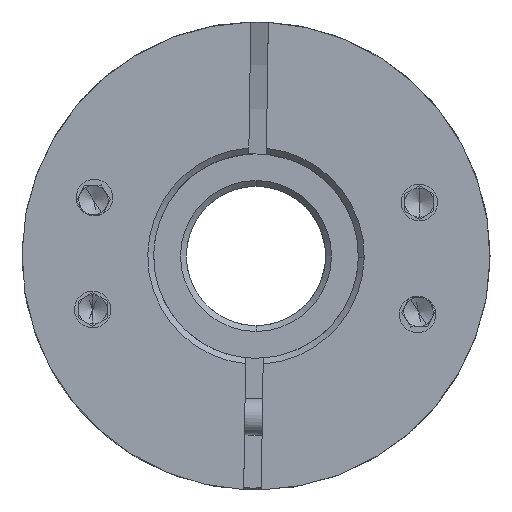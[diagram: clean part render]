
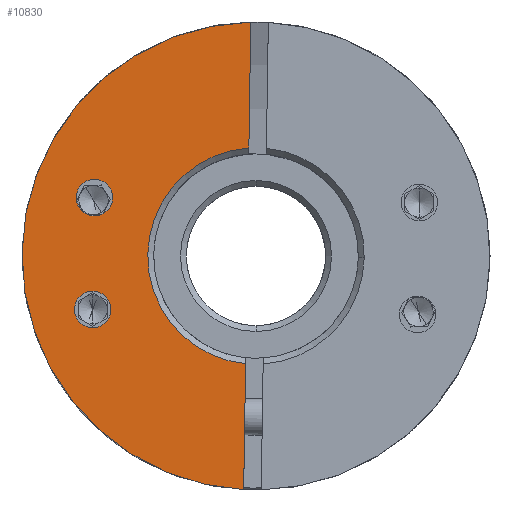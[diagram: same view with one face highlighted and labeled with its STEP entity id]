
A CAD part, front view. The second image highlights one B-rep face of the part: STEP entity #10830.
In plain terms, the highlighted planar face has unit normal (0, -1, 0).
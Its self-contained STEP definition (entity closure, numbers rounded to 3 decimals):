
#327 = CARTESIAN_POINT ( 'NONE',  ( -71.479, -19.411, 4.013 ) ) ;
#743 = DIRECTION ( 'NONE',  ( 0., -1., 0. ) ) ;
#866 = CARTESIAN_POINT ( 'NONE',  ( -59.535, -19.411, 15.996 ) ) ;
#1013 = DIRECTION ( 'NONE',  ( 0., 1., 0. ) ) ;
#1608 = EDGE_CURVE ( 'NONE', #3288, #22600, #21509, .T. ) ;
#1945 = EDGE_LOOP ( 'NONE', ( #6872, #2321 ) ) ;
#1963 = VERTEX_POINT ( 'NONE', #5289 ) ;
#2269 = FACE_BOUND ( 'NONE', #19463, .T. ) ;
#2321 = ORIENTED_EDGE ( 'NONE', *, *, #17450, .T. ) ;
#2393 = CARTESIAN_POINT ( 'NONE',  ( -59.178, -19.411, 0. ) ) ;
#2466 = EDGE_CURVE ( 'NONE', #8065, #1963, #6047, .T. ) ;
#3288 = VERTEX_POINT ( 'NONE', #4559 ) ;
#3809 = CIRCLE ( 'NONE', #10572, 16. ) ;
#4025 = CIRCLE ( 'NONE', #14895, 1.25 ) ;
#4108 = ORIENTED_EDGE ( 'NONE', *, *, #14661, .F. ) ;
#4559 = CARTESIAN_POINT ( 'NONE',  ( -59.89, -19.411, -7.366 ) ) ;
#4976 = DIRECTION ( 'NONE',  ( 1., 0., -0.015 ) ) ;
#5278 = DIRECTION ( 'NONE',  ( -0.015, 0., -1. ) ) ;
#5289 = CARTESIAN_POINT ( 'NONE',  ( -75.176, -19.411, 0.243 ) ) ;
#6047 = CIRCLE ( 'NONE', #6116, 16. ) ;
#6084 = DIRECTION ( 'NONE',  ( 0., -1., 0. ) ) ;
#6116 = AXIS2_PLACEMENT_3D ( 'NONE', #2393, #743, #10005 ) ;
#6121 = EDGE_LOOP ( 'NONE', ( #16788, #9513, #4108, #15273, #24059 ) ) ;
#6758 = VERTEX_POINT ( 'NONE', #11191 ) ;
#6872 = ORIENTED_EDGE ( 'NONE', *, *, #10957, .T. ) ;
#7732 = CARTESIAN_POINT ( 'NONE',  ( -60.021, -19.411, -15.978 ) ) ;
#8065 = VERTEX_POINT ( 'NONE', #866 ) ;
#8624 = CIRCLE ( 'NONE', #19396, 1.25 ) ;
#8690 = VECTOR ( 'NONE', #5278, 1000. ) ;
#8961 = CARTESIAN_POINT ( 'NONE',  ( -59.178, -19.411, 0. ) ) ;
#8976 = DIRECTION ( 'NONE',  ( 0., -1., 0. ) ) ;
#9513 = ORIENTED_EDGE ( 'NONE', *, *, #18673, .T. ) ;
#9601 = DIRECTION ( 'NONE',  ( 1., 0., -0.015 ) ) ;
#9630 = ORIENTED_EDGE ( 'NONE', *, *, #10212, .T. ) ;
#9775 = CARTESIAN_POINT ( 'NONE',  ( -70.345, -19.411, -3.656 ) ) ;
#9956 = DIRECTION ( 'NONE',  ( 0., 1., 0. ) ) ;
#10005 = DIRECTION ( 'NONE',  ( 1., 0., -0.015 ) ) ;
#10212 = EDGE_CURVE ( 'NONE', #21025, #6758, #4025, .T. ) ;
#10502 = DIRECTION ( 'NONE',  ( 1., 0., -0.015 ) ) ;
#10572 = AXIS2_PLACEMENT_3D ( 'NONE', #18394, #8976, #22049 ) ;
#10830 = ADVANCED_FACE ( 'NONE', ( #14240, #2269, #21224 ), #21194, .T. ) ;
#10957 = EDGE_CURVE ( 'NONE', #18794, #19477, #12766, .T. ) ;
#11191 = CARTESIAN_POINT ( 'NONE',  ( -68.979, -19.411, 3.975 ) ) ;
#11313 = AXIS2_PLACEMENT_3D ( 'NONE', #15551, #20777, #9601 ) ;
#11629 = AXIS2_PLACEMENT_3D ( 'NONE', #18165, #12415, #4976 ) ;
#12415 = DIRECTION ( 'NONE',  ( 0., 1., 0. ) ) ;
#12766 = CIRCLE ( 'NONE', #11313, 1.25 ) ;
#12941 = ORIENTED_EDGE ( 'NONE', *, *, #15932, .T. ) ;
#12987 = CARTESIAN_POINT ( 'NONE',  ( -69.095, -19.411, -3.675 ) ) ;
#13518 = DIRECTION ( 'NONE',  ( 0., 1., 0. ) ) ;
#14240 = FACE_OUTER_BOUND ( 'NONE', #6121, .T. ) ;
#14661 = EDGE_CURVE ( 'NONE', #8065, #18504, #22153, .T. ) ;
#14670 = CIRCLE ( 'NONE', #11629, 7.4 ) ;
#14895 = AXIS2_PLACEMENT_3D ( 'NONE', #21105, #9956, #23065 ) ;
#15203 = CARTESIAN_POINT ( 'NONE',  ( -59.687, -19.411, 6.008 ) ) ;
#15273 = ORIENTED_EDGE ( 'NONE', *, *, #2466, .T. ) ;
#15551 = CARTESIAN_POINT ( 'NONE',  ( -70.345, -19.411, -3.656 ) ) ;
#15932 = EDGE_CURVE ( 'NONE', #6758, #21025, #8624, .T. ) ;
#16788 = ORIENTED_EDGE ( 'NONE', *, *, #1608, .F. ) ;
#16926 = DIRECTION ( 'NONE',  ( -0.015, 0., -1. ) ) ;
#17401 = AXIS2_PLACEMENT_3D ( 'NONE', #9775, #13518, #22664 ) ;
#17450 = EDGE_CURVE ( 'NONE', #19477, #18794, #21693, .T. ) ;
#18165 = CARTESIAN_POINT ( 'NONE',  ( -59.178, -19.411, 0. ) ) ;
#18345 = DIRECTION ( 'NONE',  ( 1., 0., -0.015 ) ) ;
#18394 = CARTESIAN_POINT ( 'NONE',  ( -59.178, -19.411, 0. ) ) ;
#18411 = CARTESIAN_POINT ( 'NONE',  ( -71.595, -19.411, -3.637 ) ) ;
#18504 = VERTEX_POINT ( 'NONE', #20918 ) ;
#18673 = EDGE_CURVE ( 'NONE', #3288, #18504, #14670, .T. ) ;
#18794 = VERTEX_POINT ( 'NONE', #18411 ) ;
#19396 = AXIS2_PLACEMENT_3D ( 'NONE', #21647, #1013, #10502 ) ;
#19407 = EDGE_CURVE ( 'NONE', #1963, #22600, #3809, .T. ) ;
#19463 = EDGE_LOOP ( 'NONE', ( #9630, #12941 ) ) ;
#19477 = VERTEX_POINT ( 'NONE', #12987 ) ;
#20777 = DIRECTION ( 'NONE',  ( 0., 1., 0. ) ) ;
#20918 = CARTESIAN_POINT ( 'NONE',  ( -59.666, -19.411, 7.384 ) ) ;
#20929 = VECTOR ( 'NONE', #16926, 1000. ) ;
#21025 = VERTEX_POINT ( 'NONE', #327 ) ;
#21105 = CARTESIAN_POINT ( 'NONE',  ( -70.229, -19.411, 3.994 ) ) ;
#21194 = PLANE ( 'NONE',  #22255 ) ;
#21224 = FACE_BOUND ( 'NONE', #1945, .T. ) ;
#21509 = LINE ( 'NONE', #15203, #20929 ) ;
#21647 = CARTESIAN_POINT ( 'NONE',  ( -70.229, -19.411, 3.994 ) ) ;
#21693 = CIRCLE ( 'NONE', #17401, 1.25 ) ;
#22049 = DIRECTION ( 'NONE',  ( 1., 0., -0.015 ) ) ;
#22153 = LINE ( 'NONE', #22200, #8690 ) ;
#22200 = CARTESIAN_POINT ( 'NONE',  ( -59.687, -19.411, 6.008 ) ) ;
#22255 = AXIS2_PLACEMENT_3D ( 'NONE', #8961, #6084, #18345 ) ;
#22600 = VERTEX_POINT ( 'NONE', #7732 ) ;
#22664 = DIRECTION ( 'NONE',  ( 1., 0., -0.015 ) ) ;
#23065 = DIRECTION ( 'NONE',  ( 1., 0., -0.015 ) ) ;
#24059 = ORIENTED_EDGE ( 'NONE', *, *, #19407, .T. ) ;
